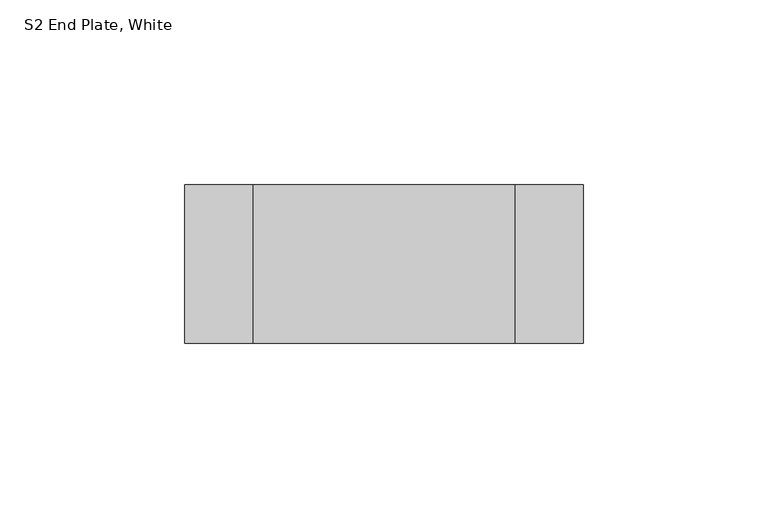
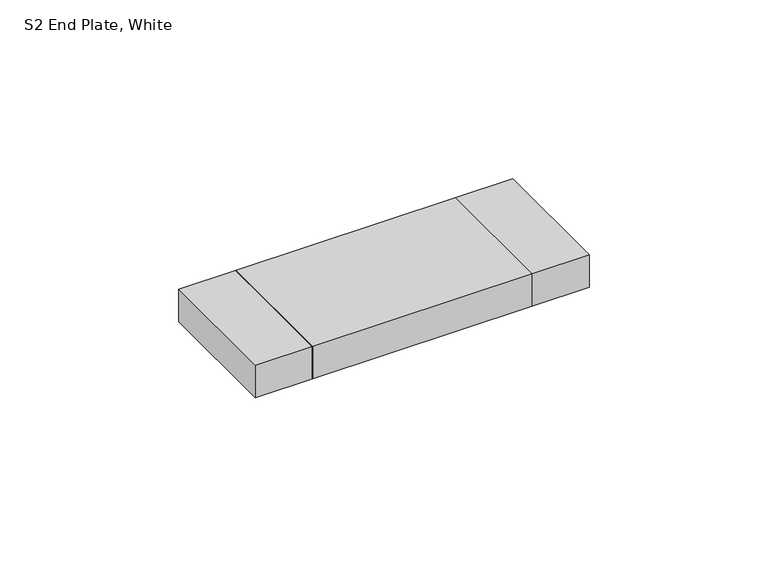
"""IFC4 building model written with IfcOpenShell, lengths in millimetres: proxy geometry, Face_Plate-4000_Series-Wiremold : S2 End Plate, White."""

from ifc_helpers import new_model, si_unit, origin, origin_with_axes, place, context, project, spatial, polyline, outline, extrude, source, transform, mapped, element, save


def s2_end_plate_white_590d6700(model_context):
    return source(origin(), model_context, "Body", "SweptSolid", [
        extrude(outline(polyline([(35.433, 21.4376), (35.433, -21.4376), (-35.433, -21.4376), (-35.433, 21.4376), (35.433, 21.4376)])), origin_with_axes(), (0.0, 0.0, 1.0), 11.1252),
        extrude(outline(polyline([(-35.433, 21.4376), (-35.433, -21.4376), (-53.975, -21.4376), (-53.975, 21.4376), (-35.433, 21.4376)])), origin_with_axes(), (0.0, 0.0, 1.0), 11.1252),
        extrude(outline(polyline([(35.433, 21.4376), (53.975, 21.4376), (53.975, -21.4376), (35.433, -21.4376), (35.433, 21.4376)])), origin_with_axes(), (0.0, 0.0, 1.0), 11.1252),
    ])


if __name__ == "__main__":
    model = new_model("IFC4")
    model_context = context("Model", 3, world=origin())
    ifc_project = project(units=[si_unit("LENGTHUNIT", "METRE", prefix="MILLI")], contexts=[model_context])
    site = spatial("IfcSite", under=ifc_project)
    building = spatial("IfcBuilding", under=site)
    placement = place(None, origin())
    s2_end_plate_white_shape = s2_end_plate_white_590d6700(model_context)
    element("IfcBuildingElementProxy", 1, Name="Face_Plate-4000_Series-Wiremold : S2 End Plate, White", ObjectType="Face_Plate-4000_Series-Wiremold : S2 End Plate, White", at=placement, inside=building, context=model_context, shape_type="MappedRepresentation", body=[
        mapped(s2_end_plate_white_shape, transform((0.0, 0.0, 0.0), x_axis=(1.0, 0.0, 0.0), y_axis=(0.0, 1.0, 0.0), z_axis=(0.0, 0.0, 1.0))),
    ])
    save(model, "model.ifc")
